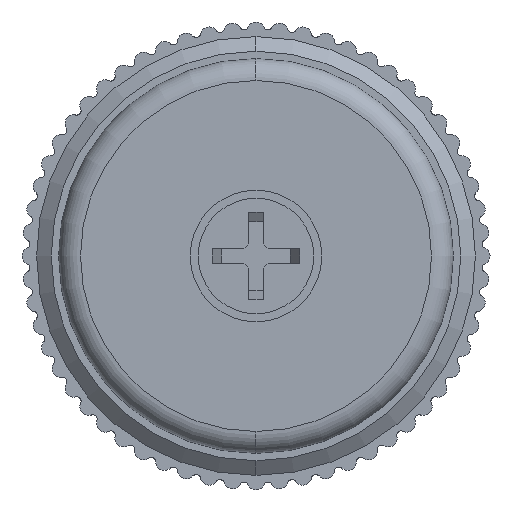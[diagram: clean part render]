
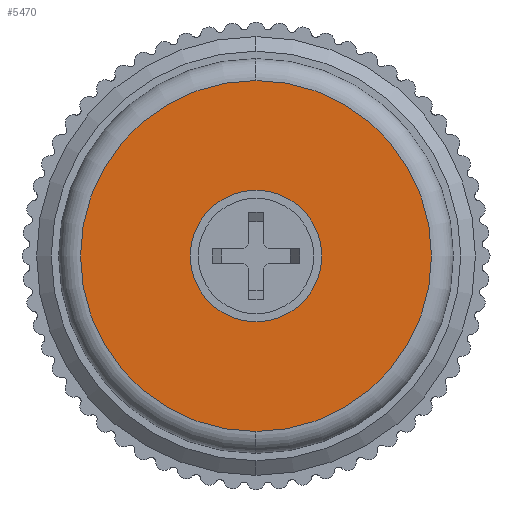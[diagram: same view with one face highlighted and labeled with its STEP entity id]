
A CAD part, front view. The second image highlights one B-rep face of the part: STEP entity #5470.
In plain terms, the highlighted planar face has unit normal (0, -1, 0).
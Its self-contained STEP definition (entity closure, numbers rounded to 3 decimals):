
#301 = DIRECTION ( 'NONE',  ( 0., 1., 0. ) ) ;
#337 = VERTEX_POINT ( 'NONE', #3087 ) ;
#338 = ORIENTED_EDGE ( 'NONE', *, *, #3254, .F. ) ;
#384 = CIRCLE ( 'NONE', #2404, 12. ) ;
#613 = EDGE_CURVE ( 'NONE', #2358, #3213, #384, .T. ) ;
#1026 = AXIS2_PLACEMENT_3D ( 'NONE', #6575, #2239, #6063 ) ;
#1279 = CARTESIAN_POINT ( 'NONE',  ( 0., 0., 0. ) ) ;
#1921 = EDGE_LOOP ( 'NONE', ( #4767, #3691 ) ) ;
#1945 = AXIS2_PLACEMENT_3D ( 'NONE', #1279, #6742, #2920 ) ;
#1963 = DIRECTION ( 'NONE',  ( 0., 1., 0. ) ) ;
#2239 = DIRECTION ( 'NONE',  ( 0., -1., 0. ) ) ;
#2358 = VERTEX_POINT ( 'NONE', #5797 ) ;
#2404 = AXIS2_PLACEMENT_3D ( 'NONE', #5791, #301, #2460 ) ;
#2460 = DIRECTION ( 'NONE',  ( 0., 0., 1. ) ) ;
#2695 = FACE_OUTER_BOUND ( 'NONE', #4473, .T. ) ;
#2920 = DIRECTION ( 'NONE',  ( 0., 0., -1. ) ) ;
#3087 = CARTESIAN_POINT ( 'NONE',  ( 0., 0., -4.5 ) ) ;
#3106 = PLANE ( 'NONE',  #4415 ) ;
#3184 = DIRECTION ( 'NONE',  ( 0., 1., 0. ) ) ;
#3213 = VERTEX_POINT ( 'NONE', #3322 ) ;
#3218 = FACE_BOUND ( 'NONE', #1921, .T. ) ;
#3254 = EDGE_CURVE ( 'NONE', #3213, #2358, #4607, .T. ) ;
#3322 = CARTESIAN_POINT ( 'NONE',  ( 0., 0., -12. ) ) ;
#3325 = VERTEX_POINT ( 'NONE', #7035 ) ;
#3691 = ORIENTED_EDGE ( 'NONE', *, *, #6873, .F. ) ;
#4192 = CARTESIAN_POINT ( 'NONE',  ( 12., 0., 0. ) ) ;
#4243 = CARTESIAN_POINT ( 'NONE',  ( 0., 0., 0. ) ) ;
#4282 = CIRCLE ( 'NONE', #1945, 4.5 ) ;
#4359 = AXIS2_PLACEMENT_3D ( 'NONE', #4243, #3184, #5358 ) ;
#4415 = AXIS2_PLACEMENT_3D ( 'NONE', #4192, #1963, #6887 ) ;
#4473 = EDGE_LOOP ( 'NONE', ( #5030, #338 ) ) ;
#4607 = CIRCLE ( 'NONE', #4359, 12. ) ;
#4767 = ORIENTED_EDGE ( 'NONE', *, *, #5086, .F. ) ;
#5030 = ORIENTED_EDGE ( 'NONE', *, *, #613, .F. ) ;
#5086 = EDGE_CURVE ( 'NONE', #337, #3325, #6320, .T. ) ;
#5358 = DIRECTION ( 'NONE',  ( 0., 0., 1. ) ) ;
#5470 = ADVANCED_FACE ( 'NONE', ( #3218, #2695 ), #3106, .F. ) ;
#5791 = CARTESIAN_POINT ( 'NONE',  ( 0., 0., 0. ) ) ;
#5797 = CARTESIAN_POINT ( 'NONE',  ( 0., 0., 12. ) ) ;
#6063 = DIRECTION ( 'NONE',  ( 0., 0., -1. ) ) ;
#6320 = CIRCLE ( 'NONE', #1026, 4.5 ) ;
#6575 = CARTESIAN_POINT ( 'NONE',  ( 0., 0., 0. ) ) ;
#6742 = DIRECTION ( 'NONE',  ( 0., -1., 0. ) ) ;
#6873 = EDGE_CURVE ( 'NONE', #3325, #337, #4282, .T. ) ;
#6887 = DIRECTION ( 'NONE',  ( 0., 0., 1. ) ) ;
#7035 = CARTESIAN_POINT ( 'NONE',  ( 0., 0., 4.5 ) ) ;
